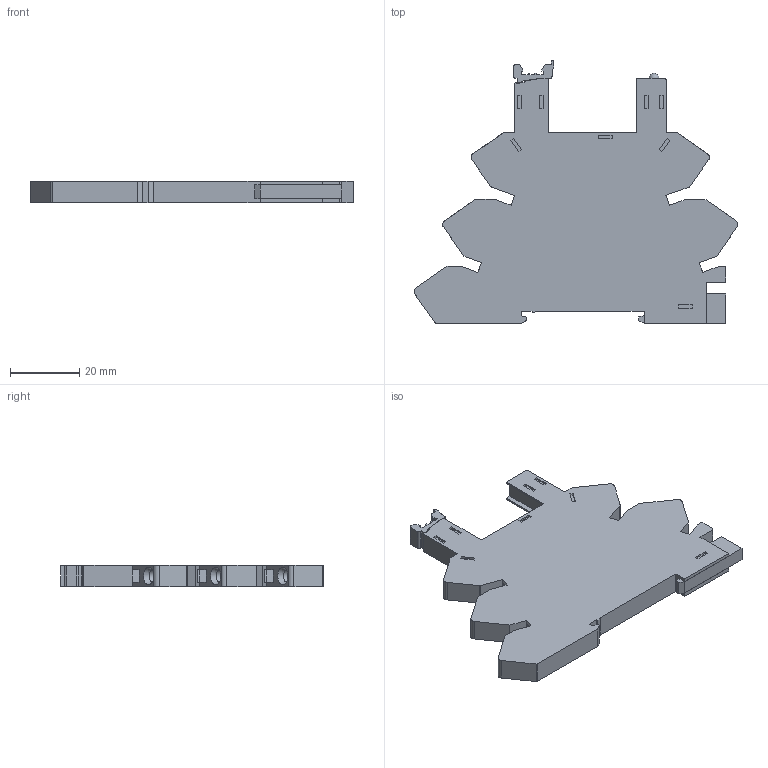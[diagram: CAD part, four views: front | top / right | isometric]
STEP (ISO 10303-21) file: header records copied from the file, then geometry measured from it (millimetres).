
FILE_DESCRIPTION(('STEP AP214'),'2;1');
FILE_NAME('93.51-skin.stp','2010-03-10T11:21:13',(''),(''),'2007.1.106','THINKDESIGN','');
FILE_SCHEMA(('AUTOMOTIVE_DESIGN'));
Length unit declared in the file: millimetre
Products named in the file (1): None
Bounding box: 93.63 x 75.98 x 6.2 mm (x, y, z)
Surface area: 12609.2 mm2 (no closed solid volume)
Topology: 0 solids, 0 shells, 324 faces, 1744 edges, 1742 vertices
Faces by surface type: plane 296, cylinder 22, bspline 6
Full cylindrical faces by diameter (mm): 3.8 x5
Entity records: 17478 total; most frequent: CARTESIAN_POINT 4157, DIRECTION 2350, COMPOSITE_CURVE_SEGMENT 1742, TRIMMED_CURVE 1660, VECTOR 1606, LINE 1606, AXIS2_PLACEMENT_3D 372, OUTER_BOUNDARY_CURVE 324
